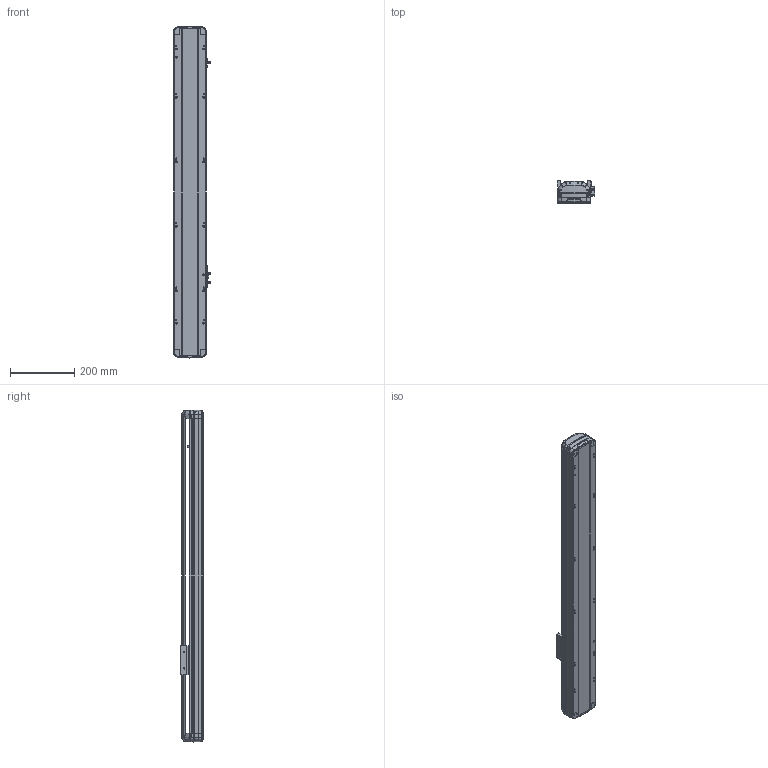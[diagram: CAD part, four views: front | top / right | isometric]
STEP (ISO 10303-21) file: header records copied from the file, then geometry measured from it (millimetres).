
FILE_DESCRIPTION (( 'STEP AP214' ), '1' );
FILE_NAME ('RTH10-XX-650-B-M10-C4.STEP', '2025-10-25T05:15:13', ( 'Microsoft' ), ( 'Microsoft' ), 'SwSTEP 2.0', 'SolidWorks 2018', '' );
FILE_SCHEMA (( 'AUTOMOTIVE_DESIGN' ));
Length unit declared in the file: millimetre
Products named in the file (7): N_RTH12-GY-001P^RTH10-XX-XX-B-M10-C4; N_OMRON EE-SX672 传感器^RTH10-XX-XX-B-M10-C4; N_RTH12-B-011P-臏倰第菁釱^RTH10-XX-XX-B-M10-C4; N_RTH12-GY-004-賑釱^RTH10-XX-XX-B-M10-C4; N_RTH13-L-012覜茼え俋离^RTH10-XX-XX-B-M10-C4; RTH10-XX-650-B-M10-C4; N_RTH12-B-007P-奻裔^RTH10-XX-XX-B-M10-C4
Assembly tree (9 placements, depth 2):
  RTH10-XX-650-B-M10-C4
    N_RTH12-B-011P-臏倰第菁釱^RTH10-XX-XX-B-M10-C4
    N_RTH13-L-012覜茼え俋离^RTH10-XX-XX-B-M10-C4
    N_OMRON EE-SX672 传感器^RTH10-XX-XX-B-M10-C4  x3
    N_RTH12-B-007P-奻裔^RTH10-XX-XX-B-M10-C4
    N_RTH12-GY-004-賑釱^RTH10-XX-XX-B-M10-C4
    N_RTH12-GY-001P^RTH10-XX-XX-B-M10-C4  x2
Bounding box: 116.5 x 70 x 1029.61 mm (x, y, z)
Volume: 3869687.1 mm3; surface area: 628862.2 mm2
Topology: 7 solids, 11 shells, 2200 faces, 6166 edges, 4036 vertices
Faces by surface type: plane 1053, bspline 712, cylinder 415, cone 16, torus 4
Entity records: 49526 total; most frequent: CARTESIAN_POINT 21578, ORIENTED_EDGE 6460, DIRECTION 4534, EDGE_CURVE 3236, VERTEX_POINT 2123, VECTOR 1668, LINE 1668, AXIS2_PLACEMENT_3D 1433
